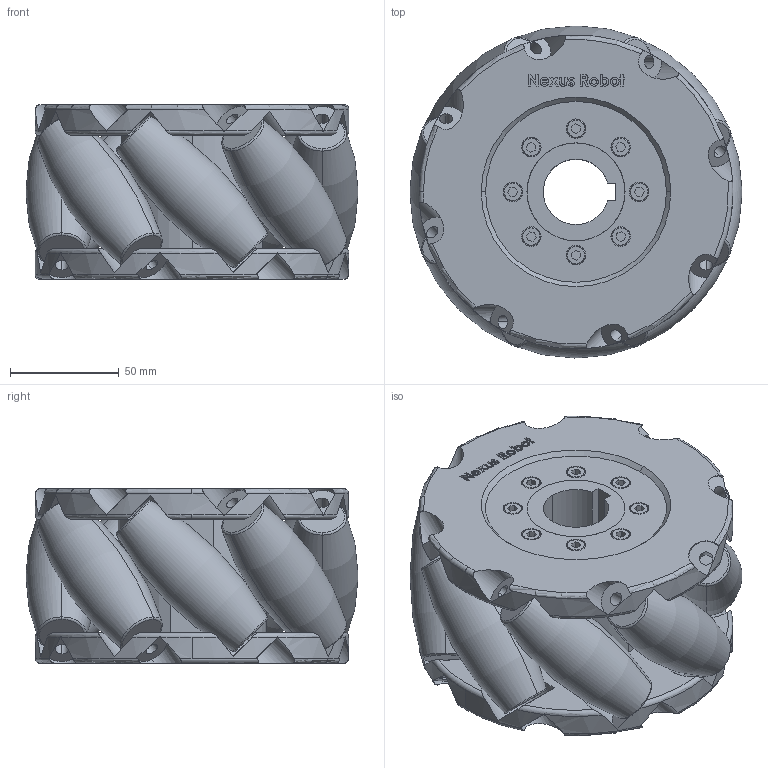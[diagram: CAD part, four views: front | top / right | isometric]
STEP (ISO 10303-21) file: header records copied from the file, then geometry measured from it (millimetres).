
FILE_DESCRIPTION (( 'STEP AP203' ), '1' );
FILE_NAME ('NM152A.STEP', '2015-03-21T05:44:04', ( 'Sky123.Org' ), ( 'Sky123.Org' ), 'SwSTEP 2.0', 'SolidWorks 2014', '' );
FILE_SCHEMA (( 'CONFIG_CONTROL_DESIGN' ));
Length unit declared in the file: millimetre
Products named in the file (5): 6渡45僅謗え宒笢陑璃; NM152A; 囀鞠褒蹟佪(M5X8); 6寸45度8分轮轴承版-包胶轮 - STP用; 6渡45僅謫え(謗え宒) - 萵掛
Assembly tree (27 placements, depth 2):
  NM152A
    6寸45度8分轮轴承版-包胶轮 - STP用  x8
    6渡45僅謗え宒笢陑璃
    囀鞠褒蹟佪(M5X8)  x16
    6渡45僅謫え(謗え宒) - 萵掛  x2
Bounding box: 152.36 x 152.36 x 80 mm (x, y, z)
Volume: 905138.3 mm3; surface area: 185821.4 mm2
Topology: 27 solids, 27 shells, 1013 faces, 2519 edges, 1610 vertices
Faces by surface type: plane 397, cylinder 284, cone 132, bspline 116, torus 84
Entity records: 16699 total; most frequent: CARTESIAN_POINT 6422, ORIENTED_EDGE 1988, DIRECTION 1758, EDGE_CURVE 994, VERTEX_POINT 654, AXIS2_PLACEMENT_3D 654, EDGE_LOOP 456, LINE 450
